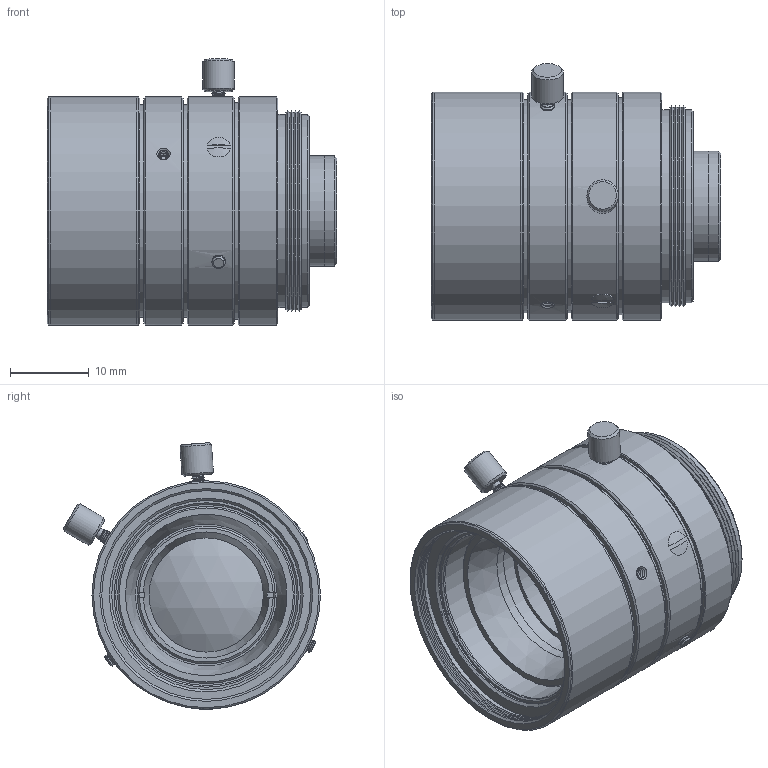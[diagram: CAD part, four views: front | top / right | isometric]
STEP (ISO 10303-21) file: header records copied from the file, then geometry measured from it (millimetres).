
FILE_DESCRIPTION(/* description */ ('Unknown'),/* implementation_level */ '2;1');
FILE_NAME(/* name */ 'M1628-MPW3',/* time_stamp */ '2021-03-21T08:43:00+09:00',/* author */ ('Unknown'),/* organization */ ('Unknown'),/* preprocessor_version */ 'ST-DEVELOPER v16.7',/* originating_system */ 'DEX',/* authorisation */ $);
FILE_SCHEMA (('AUTOMOTIVE_DESIGN {1 0 10303 214 3 1 1}'));
Length unit declared in the file: millimetre
Products named in the file (3): M1628-MPW3 Infinity; M1628-MPW3 Infinity_0; M1628-MPW3 Mechanical Limit_0
Assembly tree (2 placements, depth 2):
  M1628-MPW3 Infinity
    M1628-MPW3 Infinity_0
    M1628-MPW3 Mechanical Limit_0
Bounding box: 36.71 x 32.61 x 33.83 mm (x, y, z)
Volume: 23311.7 mm3; surface area: 42647.9 mm2
Topology: 43 solids, 43 shells, 1258 faces, 2579 edges, 1522 vertices
Faces by surface type: cone 785, plane 263, cylinder 198, sphere 12
Full cylindrical faces by diameter (mm): 1 x2, 1.3 x4, 1.5 x8, 2 x10, 3 x2, 4 x6, 6 x2, 8.5 x2, 9 x2, 9.5 x2, 10 x2, 10.5 x4, 11.5 x2, 13 x6, 14 x2, 14.5 x2, 16 x6, 18 x4, 19 x10, 19.5 x2, 20 x2, 20.5 x2, 21 x2, 21.5 x4, 22 x2, 22.5 x6, 23 x4, 23.6 x2, 24 x14, 24.5 x8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
Entity records: 29139 total; most frequent: CARTESIAN_POINT 5363, DIRECTION 5274, ORIENTED_EDGE 3486, AXIS2_PLACEMENT_3D 2507, EDGE_LOOP 2240, FACE_BOUND 2240, EDGE_CURVE 1743, VERTEX_POINT 1489
